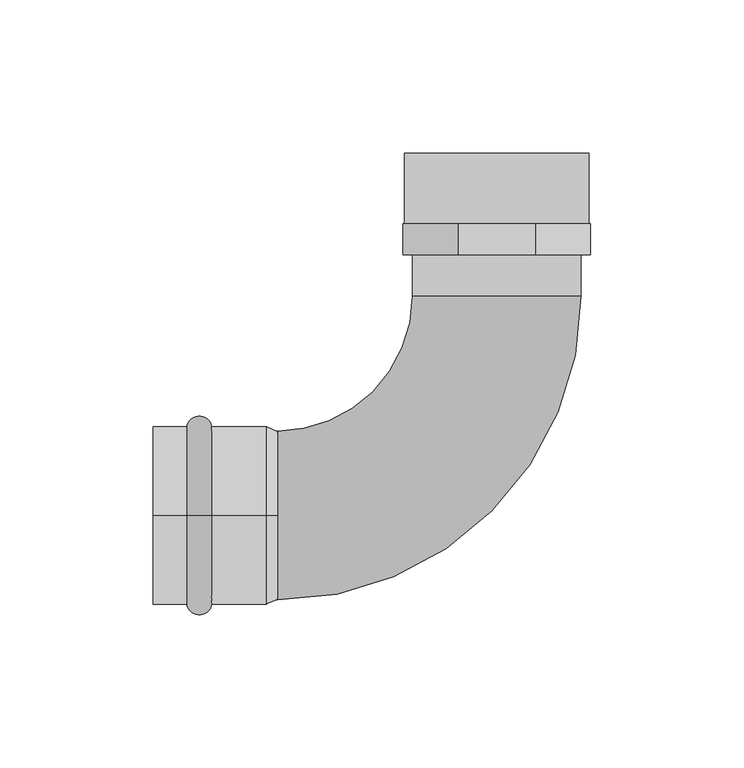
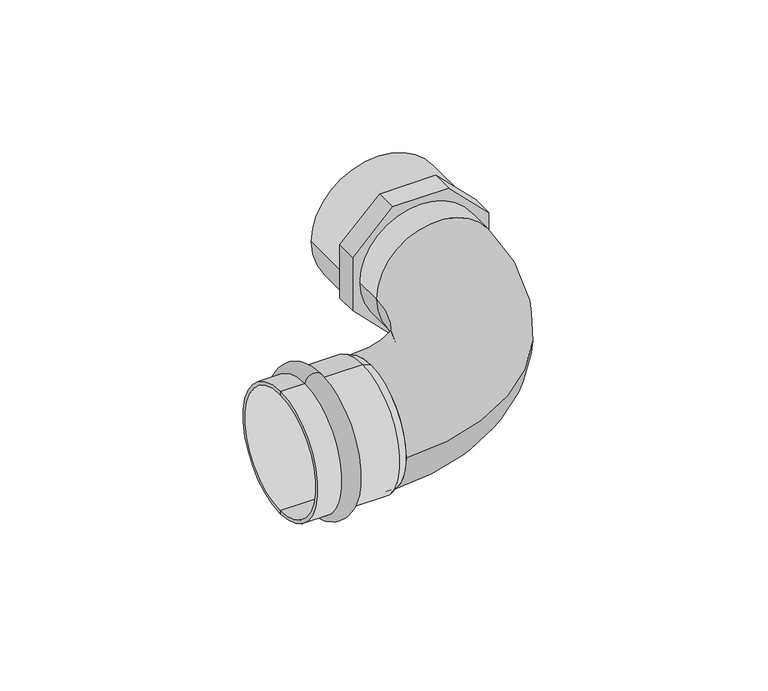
"""IFC4 building model written with IfcOpenShell, lengths in millimetres: pipe fitting geometry."""

from ifc_helpers import new_model, si_unit, point, frame, frame_2d, origin, place, context, project, spatial, polyline, circle_curve, ellipse_curve, trimmed, segment, composite_curve, outline, extrude, source, transform, mapped, element, save
from ifc_brep_helpers import plane_surface, cylinder_surface, revolved_surface, advanced_brep


def pipe_fitting_3cfd12af(model_context):
    return source(origin(), model_context, "Body", "SolidModel", [
        advanced_brep(
        [(-26.0, 0.0, 29.0), (-26.0, 0.0, -29.0), (-18.0, 0.0, -29.0), (-18.0, 0.0, 29.0)],
        [
            (0, 1, circle_curve(frame((-26.0, 0.0, 0.0), z_axis=(-1.0, 0.0, 0.0), x_axis=(0.0, 0.0, -1.0)), 29.0)),
            (1, 2),
            (2, 3, circle_curve(frame((-18.0, 0.0, 0.0), z_axis=(1.0, 0.0, 0.0), x_axis=(0.0, 0.0, -1.0)), 29.0)),
            (3, 0),
            (1, 0, circle_curve(frame((-26.0, 0.0, 0.0), z_axis=(-1.0, 0.0, 0.0), x_axis=(0.0, 0.0, -1.0)), 29.0)),
            (3, 2, circle_curve(frame((-18.0, 0.0, 0.0), z_axis=(1.0, 0.0, 0.0), x_axis=(0.0, 0.0, -1.0)), 29.0)),
            (2, 1, ellipse_curve(frame((-22.0, 0.0, -29.0), z_axis=(0.0, 1.0, 0.0), x_axis=(-1.0, 0.0, 0.0)), 4.0, 3.5)),
            (0, 3, ellipse_curve(frame((-22.0, 0.0, 29.0), z_axis=(0.0, 1.0, 0.0), x_axis=(-1.0, 0.0, 0.0)), 4.0, 3.5)),
        ],
        [
            revolved_surface(polyline([(-18.0, 0.0, -29.0), (-26.0, 0.0, -29.0)]), (4.0, 0.0, 0.0), (1.0, 0.0, 0.0)),
            revolved_surface(trimmed(ellipse_curve(frame((-22.0, 0.0, -29.0), z_axis=(0.0, -1.0, 0.0), x_axis=(-1.0, 0.0, 0.0)), 4.0, 3.5), [point((-26.0, 0.0, -29.0))], [point((-18.0, 0.0, -29.0))], True, "CARTESIAN"), (4.0, 0.0, 0.0), (1.0, 0.0, 0.0)),
        ],
        [
            (0, [[1, 2, 3, 4]]),
            (0, [[5, -4, 6, -2]]),
            (1, [[-3, 7, -1, 8]]),
            (1, [[-6, -8, -5, -7]]),
        ],
    ),
        advanced_brep(
        [(3.5337785, 0.0, 27.5), (3.5337785, 0.0, -27.5), (0.0, 0.0, -29.0), (0.0, 0.0, 29.0), (-37.0, 0.0, 27.5), (-37.0, 0.0, -27.5), (-37.0, 0.0, 29.0), (-37.0, 0.0, -29.0)],
        [
            (0, 1, circle_curve(frame((3.5337785, 0.0, 0.0), z_axis=(-1.0, 0.0, 0.0), x_axis=(0.0, 0.0, -1.0)), 27.5)),
            (1, 2),
            (2, 3, circle_curve(frame((0.0, 0.0, 0.0), z_axis=(1.0, 0.0, 0.0), x_axis=(0.0, 0.0, -1.0)), 29.0)),
            (3, 0),
            (1, 0, circle_curve(frame((3.5337785, 0.0, 0.0), z_axis=(-1.0, 0.0, 0.0), x_axis=(0.0, 0.0, -1.0)), 27.5)),
            (3, 2, circle_curve(frame((0.0, 0.0, 0.0), z_axis=(1.0, 0.0, 0.0), x_axis=(0.0, 0.0, -1.0)), 29.0)),
            (4, 5, circle_curve(frame((-37.0, 0.0, 0.0), z_axis=(-1.0, 0.0, 0.0), x_axis=(0.0, 0.0, -1.0)), 27.5)),
            (5, 1),
            (0, 4),
            (5, 4, circle_curve(frame((-37.0, 0.0, 0.0), z_axis=(-1.0, 0.0, 0.0), x_axis=(0.0, 0.0, -1.0)), 27.5)),
            (6, 7, circle_curve(frame((-37.0, 0.0, 0.0), z_axis=(-1.0, 0.0, 0.0), x_axis=(0.0, 0.0, -1.0)), 29.0)),
            (7, 5),
            (4, 6),
            (7, 6, circle_curve(frame((-37.0, 0.0, 0.0), z_axis=(-1.0, 0.0, 0.0), x_axis=(0.0, 0.0, -1.0)), 29.0)),
            (2, 7),
            (6, 3),
        ],
        [
            revolved_surface(polyline([(0.0, 0.0, -29.0), (3.5337785, 0.0, -27.5)]), (4.0, 0.0, 0.0), (1.0, 0.0, 0.0)),
            revolved_surface(polyline([(3.5337785, 0.0, -27.5), (-37.0, 0.0, -27.5)]), (4.0, 0.0, 0.0), (1.0, 0.0, 0.0)),
            plane_surface(frame((-37.0, 0.0, 0.0), z_axis=(-1.0, 0.0, 0.0), x_axis=(0.0, 0.0, -1.0))),
            cylinder_surface(frame((4.0, 0.0, 0.0), z_axis=(1.0, 0.0, 0.0), x_axis=(0.0, 0.0, -1.0)), 29.0),
        ],
        [
            (0, [[1, 2, 3, 4]]),
            (0, [[5, -4, 6, -2]]),
            (1, [[7, 8, -1, 9]]),
            (1, [[10, -9, -5, -8]]),
            (2, [[11, 12, -7, 13]]),
            (2, [[14, -13, -10, -12]]),
            (3, [[-3, 15, -11, 16]]),
            (3, [[-6, -16, -14, -15]]),
        ],
    ),
        extrude(outline(polyline([(12.6335137, 105.5), (30.5, 87.6335137), (30.5, 62.3664863), (12.6335137, 44.5), (-12.6335137, 44.5), (-30.5, 62.3664863), (-30.5, 87.6335137), (-12.6335137, 105.5), (12.6335137, 105.5)]), holes=[polyline([(-22.5, 65.6801948), (-9.3198052, 52.5), (9.3198052, 52.5), (22.5, 65.6801948), (22.5, 84.3198052), (9.3198052, 97.5), (-9.3198052, 97.5), (-22.5, 84.3198052), (-22.5, 65.6801948)])]), frame((0.0, 85.0, 0.0), z_axis=(0.0, 1.0, 0.0), x_axis=(0.0, 0.0, 1.0)), (0.0, 0.0, 1.0), 10.0),
        extrude(outline(composite_curve([segment(trimmed(circle_curve(frame_2d((0.0, 75.0)), 30.0), [point((0.0, 45.0))], [point((0.0, 105.0))], False, "CARTESIAN"), True, "CONTINUOUS"), segment(trimmed(circle_curve(frame_2d((0.0, 75.0)), 30.0), [point((0.0, 105.0))], [point((0.0, 45.0))], False, "CARTESIAN"), True, "CONTINUOUS")], self_intersect=False)), frame((0.0, 95.0, 0.0), z_axis=(0.0, 1.0, 0.0), x_axis=(0.0, 0.0, 1.0)), (0.0, 0.0, 1.0), 23.0),
        advanced_brep(
        [(0.0, -27.5, 0.0), (0.0, 27.5, 0.0), (3.5337785, -27.5, 0.0), (3.5337785, 27.5, 0.0), (47.5, 71.4662215, 0.0), (102.5, 71.4662215, 0.0), (102.5, 85.0, 0.0), (47.5, 85.0, 0.0)],
        [
            (0, 1, circle_curve(frame((0.0, 0.0, 0.0), z_axis=(-1.0, 0.0, 0.0), x_axis=(0.0, 1.0, 0.0)), 27.5)),
            (1, 0, circle_curve(frame((0.0, 0.0, 0.0), z_axis=(-1.0, 0.0, 0.0), x_axis=(0.0, 1.0, 0.0)), 27.5)),
            (0, 2),
            (2, 3, circle_curve(frame((3.5337785, 0.0, 0.0), z_axis=(-1.0, 0.0, 0.0), x_axis=(0.0, 1.0, 0.0)), 27.5)),
            (3, 1),
            (3, 2, circle_curve(frame((3.5337785, 0.0, 0.0), z_axis=(-1.0, 0.0, 0.0), x_axis=(0.0, 1.0, 0.0)), 27.5)),
            (4, 3, circle_curve(frame((3.5337785, 71.4662215, 0.0), z_axis=(0.0, 0.0, -1.0), x_axis=(0.0, -1.0, 0.0)), 43.9662215)),
            (2, 5, circle_curve(frame((3.5337785, 71.4662215, 0.0), z_axis=(0.0, 0.0, 1.0), x_axis=(0.0, -1.0, 0.0)), 98.9662215)),
            (5, 4, circle_curve(frame((75.0, 71.4662215, 0.0), z_axis=(0.0, -1.0, 0.0), x_axis=(-1.0, 0.0, 0.0)), 27.5)),
            (4, 5, circle_curve(frame((75.0, 71.4662215, 0.0), z_axis=(0.0, -1.0, 0.0), x_axis=(-1.0, 0.0, 0.0)), 27.5)),
            (6, 7, circle_curve(frame((75.0, 85.0, 0.0), z_axis=(0.0, 1.0, 0.0), x_axis=(-1.0, 0.0, 0.0)), 27.5)),
            (7, 6, circle_curve(frame((75.0, 85.0, 0.0), z_axis=(0.0, 1.0, 0.0), x_axis=(-1.0, 0.0, 0.0)), 27.5)),
            (5, 6),
            (7, 4),
        ],
        [
            plane_surface(frame((0.0, 0.0, 0.0), z_axis=(-1.0, 0.0, 0.0), x_axis=(0.0, 0.0, 1.0))),
            cylinder_surface(frame((0.0, 0.0, 0.0), z_axis=(-1.0, 0.0, 0.0), x_axis=(0.0, 1.0, 0.0)), 27.5),
            revolved_surface(trimmed(ellipse_curve(frame((3.5337785, 0.0, 0.0), z_axis=(-1.0, 0.0, 0.0), x_axis=(0.0, 1.0, 0.0)), 27.5, 27.5), [point((3.5337785, -27.5, 0.0))], [point((3.5337785, 27.5, 0.0))], True, "CARTESIAN"), (3.5337785, 71.4662215, 0.0), (0.0, 0.0, 1.0)),
            revolved_surface(trimmed(ellipse_curve(frame((3.5337785, 0.0, 0.0), z_axis=(-1.0, 0.0, 0.0), x_axis=(0.0, 1.0, 0.0)), 27.5, 27.5), [point((3.5337785, 27.5, 0.0))], [point((3.5337785, -27.5, 0.0))], True, "CARTESIAN"), (3.5337785, 71.4662215, 0.0), (0.0, 0.0, 1.0)),
            plane_surface(frame((75.0, 85.0, 0.0), z_axis=(0.0, 1.0, 0.0), x_axis=(0.0, 0.0, 1.0))),
            cylinder_surface(frame((75.0, 71.4662215, 0.0), z_axis=(0.0, -1.0, 0.0), x_axis=(-1.0, 0.0, 0.0)), 27.5),
        ],
        [
            (0, [[1, 2]]),
            (1, [[-1, 3, 4, 5]]),
            (1, [[-2, -5, 6, -3]]),
            (2, [[7, -4, 8, 9]]),
            (3, [[-8, -6, -7, 10]]),
            (4, [[11, 12]]),
            (5, [[-9, 13, -12, 14]]),
            (5, [[-10, -14, -11, -13]]),
        ],
    ),
    ])


if __name__ == "__main__":
    model = new_model("IFC4")
    model_context = context("Model", 3, world=origin())
    ifc_project = project(units=[si_unit("LENGTHUNIT", "METRE", prefix="MILLI")], contexts=[model_context])
    site = spatial("IfcSite", under=ifc_project)
    building = spatial("IfcBuilding", under=site)
    placement = place(None, origin())
    pipe_fitting_shape = pipe_fitting_3cfd12af(model_context)
    element("IfcPipeFitting", 1, ObjectType="РЕХАУ_Пресс Отвод НР : 54 x R 2\"", at=placement, inside=building, context=model_context, shape_type="MappedRepresentation", body=[
        mapped(pipe_fitting_shape, transform((0.0, 0.0, 0.0), x_axis=(1.0, 0.0, 0.0), y_axis=(0.0, 1.0, 0.0), z_axis=(0.0, 0.0, 1.0))),
    ])
    save(model, "model.ifc")
